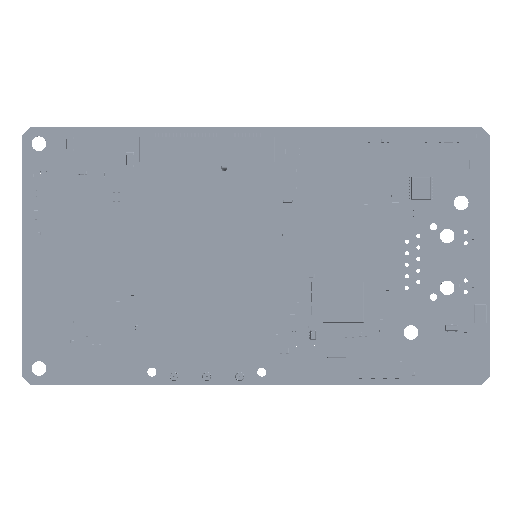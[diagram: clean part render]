
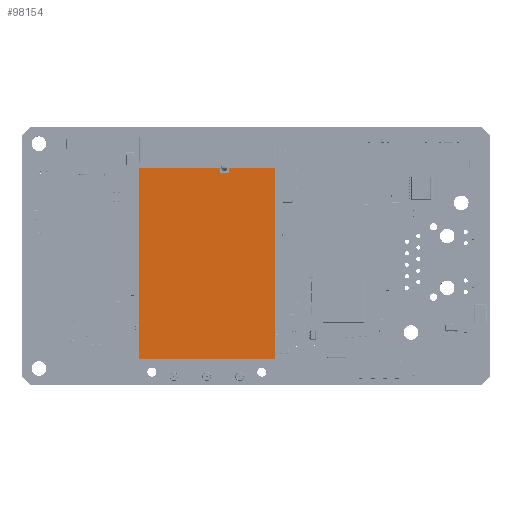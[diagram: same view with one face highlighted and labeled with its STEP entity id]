
A CAD part, top view. The second image highlights one B-rep face of the part: STEP entity #98154.
In plain terms, the highlighted planar face has unit normal (0, 0, 1) as drawn and (0, 1, 0) by its records, which use the part's own axes.
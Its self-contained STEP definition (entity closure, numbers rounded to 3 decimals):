
#98154 = ADVANCED_FACE('',(#98155),#98169,.F.);
#98155 = FACE_BOUND('',#98156,.T.);
#98156 = EDGE_LOOP('',(#98157,#98192,#98220,#98248,#98276,#98304,#98332,
    #98360));
#98157 = ORIENTED_EDGE('',*,*,#98158,.T.);
#98158 = EDGE_CURVE('',#98159,#98161,#98163,.T.);
#98159 = VERTEX_POINT('',#98160);
#98160 = CARTESIAN_POINT('',(15.,3.42,-19.675));
#98161 = VERTEX_POINT('',#98162);
#98162 = CARTESIAN_POINT('',(-15.,3.42,-19.675));
#98163 = SURFACE_CURVE('',#98164,(#98168,#98180),.PCURVE_S1.);
#98164 = LINE('',#98165,#98166);
#98165 = CARTESIAN_POINT('',(15.,3.42,-19.675));
#98166 = VECTOR('',#98167,1.);
#98167 = DIRECTION('',(-1.,0.,0.));
#98168 = PCURVE('',#98169,#98174);
#98169 = PLANE('',#98170);
#98170 = AXIS2_PLACEMENT_3D('',#98171,#98172,#98173);
#98171 = CARTESIAN_POINT('',(-16.5,3.42,24.663));
#98172 = DIRECTION('',(0.,-1.,0.));
#98173 = DIRECTION('',(0.,0.,-1.));
#98174 = DEFINITIONAL_REPRESENTATION('',(#98175),#98179);
#98175 = LINE('',#98176,#98177);
#98176 = CARTESIAN_POINT('',(44.338,31.5));
#98177 = VECTOR('',#98178,1.);
#98178 = DIRECTION('',(0.,-1.));
#98179 = ( GEOMETRIC_REPRESENTATION_CONTEXT(2) 
PARAMETRIC_REPRESENTATION_CONTEXT() REPRESENTATION_CONTEXT('2D SPACE',''
  ) );
#98180 = PCURVE('',#98181,#98186);
#98181 = PLANE('',#98182);
#98182 = AXIS2_PLACEMENT_3D('',#98183,#98184,#98185);
#98183 = CARTESIAN_POINT('',(8.91,0.9,-19.675));
#98184 = DIRECTION('',(0.,0.,1.));
#98185 = DIRECTION('',(1.,0.,0.));
#98186 = DEFINITIONAL_REPRESENTATION('',(#98187),#98191);
#98187 = LINE('',#98188,#98189);
#98188 = CARTESIAN_POINT('',(6.09,2.52));
#98189 = VECTOR('',#98190,1.);
#98190 = DIRECTION('',(-1.,0.));
#98191 = ( GEOMETRIC_REPRESENTATION_CONTEXT(2) 
PARAMETRIC_REPRESENTATION_CONTEXT() REPRESENTATION_CONTEXT('2D SPACE',''
  ) );
#98192 = ORIENTED_EDGE('',*,*,#98193,.T.);
#98193 = EDGE_CURVE('',#98161,#98194,#98196,.T.);
#98194 = VERTEX_POINT('',#98195);
#98195 = CARTESIAN_POINT('',(-15.,3.42,22.275));
#98196 = SURFACE_CURVE('',#98197,(#98201,#98208),.PCURVE_S1.);
#98197 = LINE('',#98198,#98199);
#98198 = CARTESIAN_POINT('',(-15.,3.42,-19.675));
#98199 = VECTOR('',#98200,1.);
#98200 = DIRECTION('',(0.,0.,1.));
#98201 = PCURVE('',#98169,#98202);
#98202 = DEFINITIONAL_REPRESENTATION('',(#98203),#98207);
#98203 = LINE('',#98204,#98205);
#98204 = CARTESIAN_POINT('',(44.338,1.5));
#98205 = VECTOR('',#98206,1.);
#98206 = DIRECTION('',(-1.,0.));
#98207 = ( GEOMETRIC_REPRESENTATION_CONTEXT(2) 
PARAMETRIC_REPRESENTATION_CONTEXT() REPRESENTATION_CONTEXT('2D SPACE',''
  ) );
#98208 = PCURVE('',#98209,#98214);
#98209 = PLANE('',#98210);
#98210 = AXIS2_PLACEMENT_3D('',#98211,#98212,#98213);
#98211 = CARTESIAN_POINT('',(-15.,0.9,24.373));
#98212 = DIRECTION('',(1.,0.,0.));
#98213 = DIRECTION('',(0.,0.,-1.));
#98214 = DEFINITIONAL_REPRESENTATION('',(#98215),#98219);
#98215 = LINE('',#98216,#98217);
#98216 = CARTESIAN_POINT('',(44.048,2.52));
#98217 = VECTOR('',#98218,1.);
#98218 = DIRECTION('',(-1.,0.));
#98219 = ( GEOMETRIC_REPRESENTATION_CONTEXT(2) 
PARAMETRIC_REPRESENTATION_CONTEXT() REPRESENTATION_CONTEXT('2D SPACE',''
  ) );
#98220 = ORIENTED_EDGE('',*,*,#98221,.T.);
#98221 = EDGE_CURVE('',#98194,#98222,#98224,.T.);
#98222 = VERTEX_POINT('',#98223);
#98223 = CARTESIAN_POINT('',(-4.85,3.42,22.275));
#98224 = SURFACE_CURVE('',#98225,(#98229,#98236),.PCURVE_S1.);
#98225 = LINE('',#98226,#98227);
#98226 = CARTESIAN_POINT('',(-15.,3.42,22.275));
#98227 = VECTOR('',#98228,1.);
#98228 = DIRECTION('',(1.,0.,0.));
#98229 = PCURVE('',#98169,#98230);
#98230 = DEFINITIONAL_REPRESENTATION('',(#98231),#98235);
#98231 = LINE('',#98232,#98233);
#98232 = CARTESIAN_POINT('',(2.388,1.5));
#98233 = VECTOR('',#98234,1.);
#98234 = DIRECTION('',(0.,1.));
#98235 = ( GEOMETRIC_REPRESENTATION_CONTEXT(2) 
PARAMETRIC_REPRESENTATION_CONTEXT() REPRESENTATION_CONTEXT('2D SPACE',''
  ) );
#98236 = PCURVE('',#98237,#98242);
#98237 = PLANE('',#98238);
#98238 = AXIS2_PLACEMENT_3D('',#98239,#98240,#98241);
#98239 = CARTESIAN_POINT('',(-4.343,0.9,22.275));
#98240 = DIRECTION('',(0.,0.,-1.));
#98241 = DIRECTION('',(-1.,0.,0.));
#98242 = DEFINITIONAL_REPRESENTATION('',(#98243),#98247);
#98243 = LINE('',#98244,#98245);
#98244 = CARTESIAN_POINT('',(10.658,2.52));
#98245 = VECTOR('',#98246,1.);
#98246 = DIRECTION('',(-1.,0.));
#98247 = ( GEOMETRIC_REPRESENTATION_CONTEXT(2) 
PARAMETRIC_REPRESENTATION_CONTEXT() REPRESENTATION_CONTEXT('2D SPACE',''
  ) );
#98248 = ORIENTED_EDGE('',*,*,#98249,.T.);
#98249 = EDGE_CURVE('',#98222,#98250,#98252,.T.);
#98250 = VERTEX_POINT('',#98251);
#98251 = CARTESIAN_POINT('',(-4.85,3.42,21.275));
#98252 = SURFACE_CURVE('',#98253,(#98257,#98264),.PCURVE_S1.);
#98253 = LINE('',#98254,#98255);
#98254 = CARTESIAN_POINT('',(-4.85,3.42,22.275));
#98255 = VECTOR('',#98256,1.);
#98256 = DIRECTION('',(0.,0.,-1.));
#98257 = PCURVE('',#98169,#98258);
#98258 = DEFINITIONAL_REPRESENTATION('',(#98259),#98263);
#98259 = LINE('',#98260,#98261);
#98260 = CARTESIAN_POINT('',(2.388,11.65));
#98261 = VECTOR('',#98262,1.);
#98262 = DIRECTION('',(1.,0.));
#98263 = ( GEOMETRIC_REPRESENTATION_CONTEXT(2) 
PARAMETRIC_REPRESENTATION_CONTEXT() REPRESENTATION_CONTEXT('2D SPACE',''
  ) );
#98264 = PCURVE('',#98265,#98270);
#98265 = PLANE('',#98266);
#98266 = AXIS2_PLACEMENT_3D('',#98267,#98268,#98269);
#98267 = CARTESIAN_POINT('',(-4.85,0.9,21.225));
#98268 = DIRECTION('',(-1.,0.,0.));
#98269 = DIRECTION('',(0.,0.,1.));
#98270 = DEFINITIONAL_REPRESENTATION('',(#98271),#98275);
#98271 = LINE('',#98272,#98273);
#98272 = CARTESIAN_POINT('',(1.05,2.52));
#98273 = VECTOR('',#98274,1.);
#98274 = DIRECTION('',(-1.,0.));
#98275 = ( GEOMETRIC_REPRESENTATION_CONTEXT(2) 
PARAMETRIC_REPRESENTATION_CONTEXT() REPRESENTATION_CONTEXT('2D SPACE',''
  ) );
#98276 = ORIENTED_EDGE('',*,*,#98277,.T.);
#98277 = EDGE_CURVE('',#98250,#98278,#98280,.T.);
#98278 = VERTEX_POINT('',#98279);
#98279 = CARTESIAN_POINT('',(-2.85,3.42,21.275));
#98280 = SURFACE_CURVE('',#98281,(#98285,#98292),.PCURVE_S1.);
#98281 = LINE('',#98282,#98283);
#98282 = CARTESIAN_POINT('',(-4.85,3.42,21.275));
#98283 = VECTOR('',#98284,1.);
#98284 = DIRECTION('',(1.,0.,0.));
#98285 = PCURVE('',#98169,#98286);
#98286 = DEFINITIONAL_REPRESENTATION('',(#98287),#98291);
#98287 = LINE('',#98288,#98289);
#98288 = CARTESIAN_POINT('',(3.388,11.65));
#98289 = VECTOR('',#98290,1.);
#98290 = DIRECTION('',(0.,1.));
#98291 = ( GEOMETRIC_REPRESENTATION_CONTEXT(2) 
PARAMETRIC_REPRESENTATION_CONTEXT() REPRESENTATION_CONTEXT('2D SPACE',''
  ) );
#98292 = PCURVE('',#98293,#98298);
#98293 = PLANE('',#98294);
#98294 = AXIS2_PLACEMENT_3D('',#98295,#98296,#98297);
#98295 = CARTESIAN_POINT('',(-2.75,0.9,21.275));
#98296 = DIRECTION('',(0.,0.,-1.));
#98297 = DIRECTION('',(-1.,0.,0.));
#98298 = DEFINITIONAL_REPRESENTATION('',(#98299),#98303);
#98299 = LINE('',#98300,#98301);
#98300 = CARTESIAN_POINT('',(2.1,2.52));
#98301 = VECTOR('',#98302,1.);
#98302 = DIRECTION('',(-1.,0.));
#98303 = ( GEOMETRIC_REPRESENTATION_CONTEXT(2) 
PARAMETRIC_REPRESENTATION_CONTEXT() REPRESENTATION_CONTEXT('2D SPACE',''
  ) );
#98304 = ORIENTED_EDGE('',*,*,#98305,.T.);
#98305 = EDGE_CURVE('',#98278,#98306,#98308,.T.);
#98306 = VERTEX_POINT('',#98307);
#98307 = CARTESIAN_POINT('',(-2.85,3.42,22.275));
#98308 = SURFACE_CURVE('',#98309,(#98313,#98320),.PCURVE_S1.);
#98309 = LINE('',#98310,#98311);
#98310 = CARTESIAN_POINT('',(-2.85,3.42,21.275));
#98311 = VECTOR('',#98312,1.);
#98312 = DIRECTION('',(0.,0.,1.));
#98313 = PCURVE('',#98169,#98314);
#98314 = DEFINITIONAL_REPRESENTATION('',(#98315),#98319);
#98315 = LINE('',#98316,#98317);
#98316 = CARTESIAN_POINT('',(3.388,13.65));
#98317 = VECTOR('',#98318,1.);
#98318 = DIRECTION('',(-1.,0.));
#98319 = ( GEOMETRIC_REPRESENTATION_CONTEXT(2) 
PARAMETRIC_REPRESENTATION_CONTEXT() REPRESENTATION_CONTEXT('2D SPACE',''
  ) );
#98320 = PCURVE('',#98321,#98326);
#98321 = PLANE('',#98322);
#98322 = AXIS2_PLACEMENT_3D('',#98323,#98324,#98325);
#98323 = CARTESIAN_POINT('',(-2.85,0.9,22.325));
#98324 = DIRECTION('',(1.,0.,0.));
#98325 = DIRECTION('',(0.,0.,-1.));
#98326 = DEFINITIONAL_REPRESENTATION('',(#98327),#98331);
#98327 = LINE('',#98328,#98329);
#98328 = CARTESIAN_POINT('',(1.05,2.52));
#98329 = VECTOR('',#98330,1.);
#98330 = DIRECTION('',(-1.,0.));
#98331 = ( GEOMETRIC_REPRESENTATION_CONTEXT(2) 
PARAMETRIC_REPRESENTATION_CONTEXT() REPRESENTATION_CONTEXT('2D SPACE',''
  ) );
#98332 = ORIENTED_EDGE('',*,*,#98333,.T.);
#98333 = EDGE_CURVE('',#98306,#98334,#98336,.T.);
#98334 = VERTEX_POINT('',#98335);
#98335 = CARTESIAN_POINT('',(15.,3.42,22.275));
#98336 = SURFACE_CURVE('',#98337,(#98341,#98348),.PCURVE_S1.);
#98337 = LINE('',#98338,#98339);
#98338 = CARTESIAN_POINT('',(-2.85,3.42,22.275));
#98339 = VECTOR('',#98340,1.);
#98340 = DIRECTION('',(1.,0.,0.));
#98341 = PCURVE('',#98169,#98342);
#98342 = DEFINITIONAL_REPRESENTATION('',(#98343),#98347);
#98343 = LINE('',#98344,#98345);
#98344 = CARTESIAN_POINT('',(2.388,13.65));
#98345 = VECTOR('',#98346,1.);
#98346 = DIRECTION('',(0.,1.));
#98347 = ( GEOMETRIC_REPRESENTATION_CONTEXT(2) 
PARAMETRIC_REPRESENTATION_CONTEXT() REPRESENTATION_CONTEXT('2D SPACE',''
  ) );
#98348 = PCURVE('',#98349,#98354);
#98349 = PLANE('',#98350);
#98350 = AXIS2_PLACEMENT_3D('',#98351,#98352,#98353);
#98351 = CARTESIAN_POINT('',(15.893,0.9,22.275));
#98352 = DIRECTION('',(0.,0.,-1.));
#98353 = DIRECTION('',(-1.,0.,0.));
#98354 = DEFINITIONAL_REPRESENTATION('',(#98355),#98359);
#98355 = LINE('',#98356,#98357);
#98356 = CARTESIAN_POINT('',(18.743,2.52));
#98357 = VECTOR('',#98358,1.);
#98358 = DIRECTION('',(-1.,0.));
#98359 = ( GEOMETRIC_REPRESENTATION_CONTEXT(2) 
PARAMETRIC_REPRESENTATION_CONTEXT() REPRESENTATION_CONTEXT('2D SPACE',''
  ) );
#98360 = ORIENTED_EDGE('',*,*,#98361,.T.);
#98361 = EDGE_CURVE('',#98334,#98159,#98362,.T.);
#98362 = SURFACE_CURVE('',#98363,(#98367,#98374),.PCURVE_S1.);
#98363 = LINE('',#98364,#98365);
#98364 = CARTESIAN_POINT('',(15.,3.42,22.275));
#98365 = VECTOR('',#98366,1.);
#98366 = DIRECTION('',(0.,0.,-1.));
#98367 = PCURVE('',#98169,#98368);
#98368 = DEFINITIONAL_REPRESENTATION('',(#98369),#98373);
#98369 = LINE('',#98370,#98371);
#98370 = CARTESIAN_POINT('',(2.388,31.5));
#98371 = VECTOR('',#98372,1.);
#98372 = DIRECTION('',(1.,0.));
#98373 = ( GEOMETRIC_REPRESENTATION_CONTEXT(2) 
PARAMETRIC_REPRESENTATION_CONTEXT() REPRESENTATION_CONTEXT('2D SPACE',''
  ) );
#98374 = PCURVE('',#98375,#98380);
#98375 = PLANE('',#98376);
#98376 = AXIS2_PLACEMENT_3D('',#98377,#98378,#98379);
#98377 = CARTESIAN_POINT('',(15.,0.9,-21.773));
#98378 = DIRECTION('',(-1.,0.,0.));
#98379 = DIRECTION('',(0.,0.,1.));
#98380 = DEFINITIONAL_REPRESENTATION('',(#98381),#98385);
#98381 = LINE('',#98382,#98383);
#98382 = CARTESIAN_POINT('',(44.048,2.52));
#98383 = VECTOR('',#98384,1.);
#98384 = DIRECTION('',(-1.,0.));
#98385 = ( GEOMETRIC_REPRESENTATION_CONTEXT(2) 
PARAMETRIC_REPRESENTATION_CONTEXT() REPRESENTATION_CONTEXT('2D SPACE',''
  ) );
